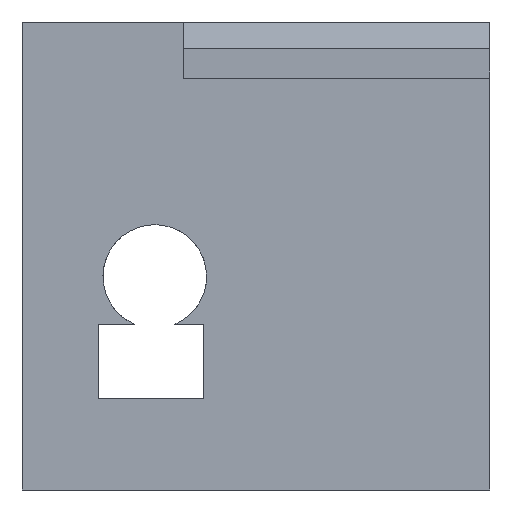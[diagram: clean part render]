
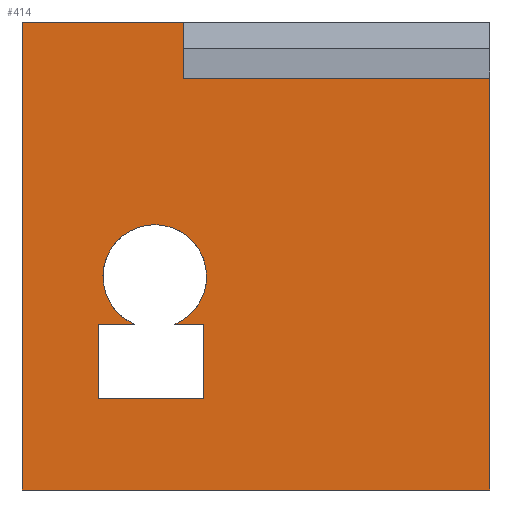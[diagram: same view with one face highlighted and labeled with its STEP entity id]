
A CAD part, front view. The second image highlights one B-rep face of the part: STEP entity #414.
In plain terms, the highlighted planar face has unit normal (0, -1, 0).
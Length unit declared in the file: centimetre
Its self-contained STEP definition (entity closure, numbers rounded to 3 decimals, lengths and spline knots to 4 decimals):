
#4 = DIRECTION ( 'NONE',  ( 0., 0., 1. ) ) ;
#18 = VERTEX_POINT ( 'NONE', #695 ) ;
#27 = VERTEX_POINT ( 'NONE', #1343 ) ;
#62 = DIRECTION ( 'NONE',  ( 0., 0., -1. ) ) ;
#64 = EDGE_CURVE ( 'NONE', #364, #27, #913, .T. ) ;
#78 = VECTOR ( 'NONE', #1085, 100. ) ;
#81 = VECTOR ( 'NONE', #990, 100. ) ;
#100 = CARTESIAN_POINT ( 'NONE',  ( 344.7928, 0., 880.2876 ) ) ;
#104 = CARTESIAN_POINT ( 'NONE',  ( 283.7429, 0., 456.1554 ) ) ;
#111 = ORIENTED_EDGE ( 'NONE', *, *, #190, .T. ) ;
#120 = CARTESIAN_POINT ( 'NONE',  ( 1000., 0., 0. ) ) ;
#145 = CARTESIAN_POINT ( 'NONE',  ( 388.5014, 0., 195.5762 ) ) ;
#159 = LINE ( 'NONE', #278, #81 ) ;
#161 = VECTOR ( 'NONE', #574, 100. ) ;
#177 = ORIENTED_EDGE ( 'NONE', *, *, #1045, .T. ) ;
#188 = ORIENTED_EDGE ( 'NONE', *, *, #302, .F. ) ;
#190 = EDGE_CURVE ( 'NONE', #306, #1074, #454, .T. ) ;
#212 = EDGE_LOOP ( 'NONE', ( #215, #432, #1160, #188, #321, #177 ) ) ;
#215 = ORIENTED_EDGE ( 'NONE', *, *, #1099, .F. ) ;
#231 = VERTEX_POINT ( 'NONE', #573 ) ;
#233 = VERTEX_POINT ( 'NONE', #875 ) ;
#246 = ORIENTED_EDGE ( 'NONE', *, *, #64, .T. ) ;
#270 = CARTESIAN_POINT ( 'NONE',  ( 1000., 0., 1000. ) ) ;
#274 = VECTOR ( 'NONE', #62, 100. ) ;
#278 = CARTESIAN_POINT ( 'NONE',  ( 164.0064, 0., 195.5762 ) ) ;
#284 = LINE ( 'NONE', #1108, #161 ) ;
#298 = FACE_OUTER_BOUND ( 'NONE', #212, .T. ) ;
#302 = EDGE_CURVE ( 'NONE', #927, #18, #1245, .T. ) ;
#303 = DIRECTION ( 'NONE',  ( 1., 0., 0. ) ) ;
#306 = VERTEX_POINT ( 'NONE', #693 ) ;
#321 = ORIENTED_EDGE ( 'NONE', *, *, #1049, .T. ) ;
#322 = DIRECTION ( 'NONE',  ( 0., -1., 0. ) ) ;
#331 = CIRCLE ( 'NONE', #449, 110.7388 ) ;
#364 = VERTEX_POINT ( 'NONE', #486 ) ;
#414 = ADVANCED_FACE ( 'NONE', ( #1241, #298 ), #1147, .F. ) ;
#432 = ORIENTED_EDGE ( 'NONE', *, *, #704, .F. ) ;
#449 = AXIS2_PLACEMENT_3D ( 'NONE', #104, #322, #737 ) ;
#450 = ORIENTED_EDGE ( 'NONE', *, *, #506, .F. ) ;
#454 = LINE ( 'NONE', #145, #1243 ) ;
#459 = VECTOR ( 'NONE', #1294, 100. ) ;
#478 = CARTESIAN_POINT ( 'NONE',  ( 326.4919, 0., 354.0007 ) ) ;
#486 = CARTESIAN_POINT ( 'NONE',  ( 164.0064, 0., 195.5762 ) ) ;
#506 = EDGE_CURVE ( 'NONE', #612, #831, #331, .T. ) ;
#519 = AXIS2_PLACEMENT_3D ( 'NONE', #820, #1321, #4 ) ;
#521 = CARTESIAN_POINT ( 'NONE',  ( 240.9939, 0., 354.0007 ) ) ;
#523 = VECTOR ( 'NONE', #1276, 100. ) ;
#549 = LINE ( 'NONE', #1255, #523 ) ;
#550 = CARTESIAN_POINT ( 'NONE',  ( 0., 0., 0. ) ) ;
#557 = DIRECTION ( 'NONE',  ( 0., 0., -1. ) ) ;
#567 = EDGE_LOOP ( 'NONE', ( #769, #450, #1067, #111, #834, #246 ) ) ;
#573 = CARTESIAN_POINT ( 'NONE',  ( 344.7928, 0., 880.2876 ) ) ;
#574 = DIRECTION ( 'NONE',  ( 1., 0., 0. ) ) ;
#601 = CARTESIAN_POINT ( 'NONE',  ( 0., 0., 1000. ) ) ;
#612 = VERTEX_POINT ( 'NONE', #478 ) ;
#631 = EDGE_CURVE ( 'NONE', #27, #831, #1304, .T. ) ;
#693 = CARTESIAN_POINT ( 'NONE',  ( 388.5014, 0., 354.0007 ) ) ;
#695 = CARTESIAN_POINT ( 'NONE',  ( 344.7928, 0., 1000. ) ) ;
#704 = EDGE_CURVE ( 'NONE', #231, #233, #1007, .T. ) ;
#737 = DIRECTION ( 'NONE',  ( 0., 0., -1. ) ) ;
#769 = ORIENTED_EDGE ( 'NONE', *, *, #631, .T. ) ;
#778 = LINE ( 'NONE', #1322, #459 ) ;
#789 = CARTESIAN_POINT ( 'NONE',  ( 388.5014, 0., 195.5762 ) ) ;
#820 = CARTESIAN_POINT ( 'NONE',  ( 0., 0., 1000. ) ) ;
#831 = VERTEX_POINT ( 'NONE', #521 ) ;
#834 = ORIENTED_EDGE ( 'NONE', *, *, #1023, .T. ) ;
#875 = CARTESIAN_POINT ( 'NONE',  ( 1000., 0., 880.2876 ) ) ;
#888 = VERTEX_POINT ( 'NONE', #120 ) ;
#907 = DIRECTION ( 'NONE',  ( 0., 0., -1. ) ) ;
#913 = LINE ( 'NONE', #1311, #975 ) ;
#925 = VERTEX_POINT ( 'NONE', #550 ) ;
#927 = VERTEX_POINT ( 'NONE', #974 ) ;
#974 = CARTESIAN_POINT ( 'NONE',  ( 0., 0., 1000. ) ) ;
#975 = VECTOR ( 'NONE', #1102, 100. ) ;
#977 = EDGE_CURVE ( 'NONE', #18, #231, #778, .T. ) ;
#990 = DIRECTION ( 'NONE',  ( -1., 0., 0. ) ) ;
#1002 = CARTESIAN_POINT ( 'NONE',  ( 0., 0., 1000. ) ) ;
#1007 = LINE ( 'NONE', #100, #1274 ) ;
#1023 = EDGE_CURVE ( 'NONE', #1074, #364, #159, .T. ) ;
#1045 = EDGE_CURVE ( 'NONE', #925, #888, #284, .T. ) ;
#1049 = EDGE_CURVE ( 'NONE', #927, #925, #1315, .T. ) ;
#1067 = ORIENTED_EDGE ( 'NONE', *, *, #1295, .T. ) ;
#1074 = VERTEX_POINT ( 'NONE', #789 ) ;
#1085 = DIRECTION ( 'NONE',  ( 1., 0., 0. ) ) ;
#1099 = EDGE_CURVE ( 'NONE', #233, #888, #1198, .T. ) ;
#1102 = DIRECTION ( 'NONE',  ( 0., 0., 1. ) ) ;
#1108 = CARTESIAN_POINT ( 'NONE',  ( 0., 0., 0. ) ) ;
#1111 = CARTESIAN_POINT ( 'NONE',  ( 164.0064, 0., 354.0007 ) ) ;
#1112 = VECTOR ( 'NONE', #907, 100. ) ;
#1147 = PLANE ( 'NONE',  #519 ) ;
#1160 = ORIENTED_EDGE ( 'NONE', *, *, #977, .F. ) ;
#1198 = LINE ( 'NONE', #270, #274 ) ;
#1241 = FACE_BOUND ( 'NONE', #567, .T. ) ;
#1243 = VECTOR ( 'NONE', #557, 100. ) ;
#1245 = LINE ( 'NONE', #601, #1260 ) ;
#1255 = CARTESIAN_POINT ( 'NONE',  ( 164.0064, 0., 354.0007 ) ) ;
#1260 = VECTOR ( 'NONE', #303, 100. ) ;
#1274 = VECTOR ( 'NONE', #1331, 100. ) ;
#1276 = DIRECTION ( 'NONE',  ( 1., 0., 0. ) ) ;
#1294 = DIRECTION ( 'NONE',  ( 0., 0., -1. ) ) ;
#1295 = EDGE_CURVE ( 'NONE', #612, #306, #549, .T. ) ;
#1304 = LINE ( 'NONE', #1111, #78 ) ;
#1311 = CARTESIAN_POINT ( 'NONE',  ( 164.0064, 0., 195.5762 ) ) ;
#1315 = LINE ( 'NONE', #1002, #1112 ) ;
#1321 = DIRECTION ( 'NONE',  ( 0., 1., 0. ) ) ;
#1322 = CARTESIAN_POINT ( 'NONE',  ( 344.7928, 0., 880.2876 ) ) ;
#1331 = DIRECTION ( 'NONE',  ( 1., 0., 0. ) ) ;
#1343 = CARTESIAN_POINT ( 'NONE',  ( 164.0064, 0., 354.0007 ) ) ;
